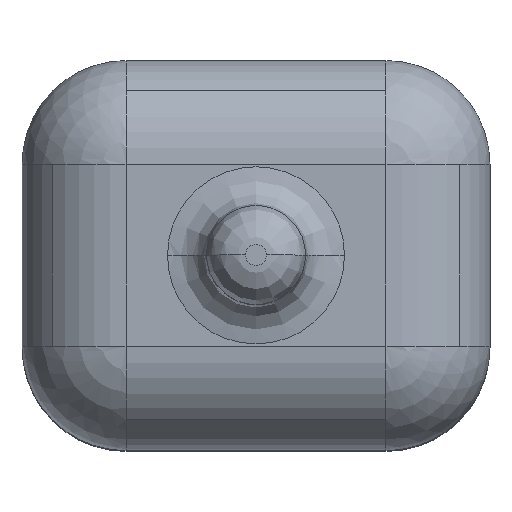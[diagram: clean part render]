
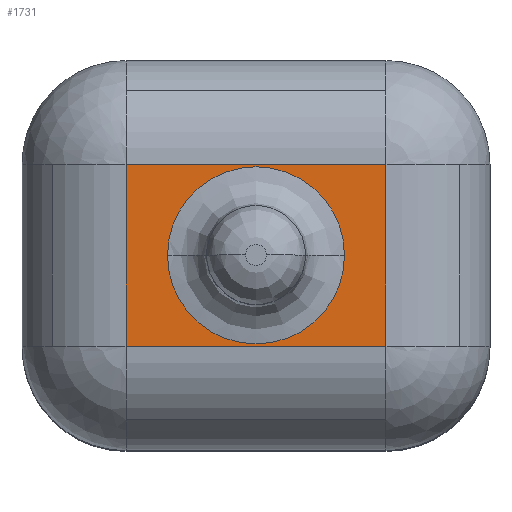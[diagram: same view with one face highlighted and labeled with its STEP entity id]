
A CAD part, top view. The second image highlights one B-rep face of the part: STEP entity #1731.
In plain terms, the highlighted planar face has unit normal (0, 0, 1).
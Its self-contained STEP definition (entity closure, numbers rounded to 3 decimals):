
#605=CARTESIAN_POINT('',(0.206,0.953,-2.12));
#606=VERTEX_POINT('',#605);
#614=CARTESIAN_POINT('',(1.206,0.953,-2.12));
#615=VERTEX_POINT('',#614);
#616=CARTESIAN_POINT('',(0.206,0.953,-2.12));
#617=DIRECTION('',(1.0,0.0,0.0));
#618=VECTOR('',#617,1.);
#619=LINE('',#616,#618);
#620=EDGE_CURVE('',#606,#615,#619,.T.);
#696=CARTESIAN_POINT('',(1.206,0.253,-2.12));
#697=VERTEX_POINT('',#696);
#698=CARTESIAN_POINT('',(1.206,0.953,-2.12));
#699=DIRECTION('',(0.0,-1.0,0.0));
#700=VECTOR('',#699,0.7);
#701=LINE('',#698,#700);
#702=EDGE_CURVE('',#615,#697,#701,.T.);
#729=CARTESIAN_POINT('',(0.206,0.253,-2.12));
#730=VERTEX_POINT('',#729);
#738=CARTESIAN_POINT('',(0.206,0.253,-2.12));
#739=DIRECTION('',(0.0,1.0,0.0));
#740=VECTOR('',#739,0.7);
#741=LINE('',#738,#740);
#742=EDGE_CURVE('',#730,#606,#741,.T.);
#776=CARTESIAN_POINT('',(1.206,0.253,-2.12));
#777=DIRECTION('',(-1.0,0.0,0.0));
#778=VECTOR('',#777,1.);
#779=LINE('',#776,#778);
#780=EDGE_CURVE('',#697,#730,#779,.T.);
#1399=CARTESIAN_POINT('',(1.047,0.603,-2.12));
#1400=VERTEX_POINT('',#1399);
#1417=CARTESIAN_POINT('',(0.366,0.603,-2.12));
#1418=VERTEX_POINT('',#1417);
#1426=CARTESIAN_POINT('',(0.706,0.603,-2.12));
#1427=DIRECTION('',(0.0,0.0,1.0));
#1428=DIRECTION('',(-1.0,0.0,0.0));
#1429=AXIS2_PLACEMENT_3D('',#1426,#1427,#1428);
#1430=CIRCLE('',#1429,0.341);
#1431=EDGE_CURVE('',#1418,#1400,#1430,.T.);
#1704=CARTESIAN_POINT('',(0.706,0.603,-2.12));
#1705=DIRECTION('',(0.0,0.0,1.0));
#1706=DIRECTION('',(-1.0,0.0,0.0));
#1707=AXIS2_PLACEMENT_3D('',#1704,#1705,#1706);
#1708=CIRCLE('',#1707,0.341);
#1709=EDGE_CURVE('',#1400,#1418,#1708,.T.);
#1716=CARTESIAN_POINT('',(2.003,0.857,-2.12));
#1717=DIRECTION('',(0.0,0.0,1.0));
#1718=DIRECTION('',(1.0,0.0,0.0));
#1719=AXIS2_PLACEMENT_3D('',#1716,#1717,#1718);
#1720=PLANE('',#1719);
#1721=ORIENTED_EDGE('',*,*,#780,.F.);
#1722=ORIENTED_EDGE('',*,*,#702,.F.);
#1723=ORIENTED_EDGE('',*,*,#620,.F.);
#1724=ORIENTED_EDGE('',*,*,#742,.F.);
#1725=EDGE_LOOP('',(#1721,#1722,#1723,#1724));
#1726=FACE_OUTER_BOUND('',#1725,.T.);
#1727=ORIENTED_EDGE('',*,*,#1709,.F.);
#1728=ORIENTED_EDGE('',*,*,#1431,.F.);
#1729=EDGE_LOOP('',(#1727,#1728));
#1730=FACE_BOUND('',#1729,.T.);
#1731=ADVANCED_FACE('',(#1726,#1730),#1720,.T.);
